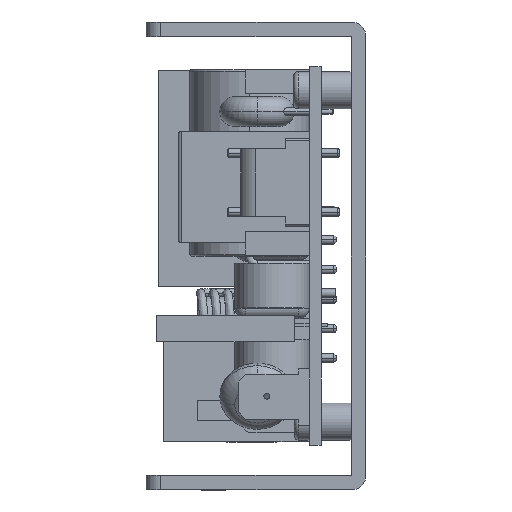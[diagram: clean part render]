
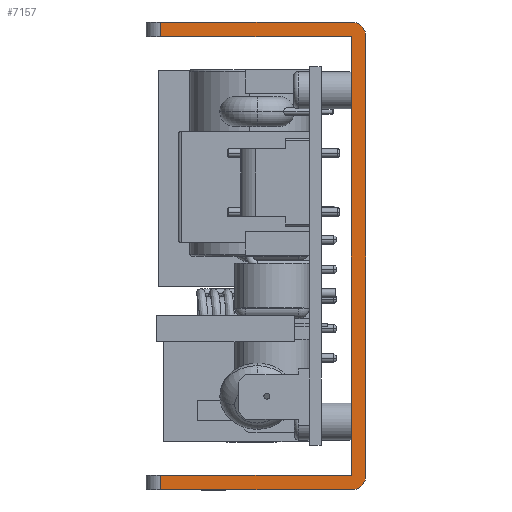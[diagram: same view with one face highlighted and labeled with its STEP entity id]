
A CAD part, left-side view. The second image highlights one B-rep face of the part: STEP entity #7157.
In plain terms, the highlighted planar face has unit normal (-1, 0, 0).
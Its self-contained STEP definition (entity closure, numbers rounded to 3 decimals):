
#93 = LINE ( 'NONE', #13822, #1329 ) ;
#248 = CARTESIAN_POINT ( 'NONE',  ( 0., 27.5, 0. ) ) ;
#297 = VERTEX_POINT ( 'NONE', #16114 ) ;
#1262 = CARTESIAN_POINT ( 'NONE',  ( 0., 2., 0. ) ) ;
#1315 = DIRECTION ( 'NONE',  ( -1., 0., 0. ) ) ;
#1329 = VECTOR ( 'NONE', #20276, 1000. ) ;
#1388 = PLANE ( 'NONE',  #6028 ) ;
#1786 = ORIENTED_EDGE ( 'NONE', *, *, #17765, .T. ) ;
#1854 = VECTOR ( 'NONE', #2085, 1000. ) ;
#2005 = VECTOR ( 'NONE', #14659, 1000. ) ;
#2007 = VERTEX_POINT ( 'NONE', #4322 ) ;
#2059 = VECTOR ( 'NONE', #3610, 1000. ) ;
#2085 = DIRECTION ( 'NONE',  ( 0., 0., 1. ) ) ;
#2361 = VERTEX_POINT ( 'NONE', #19154 ) ;
#2841 = ORIENTED_EDGE ( 'NONE', *, *, #12361, .F. ) ;
#3081 = DIRECTION ( 'NONE',  ( 0., 0., -1. ) ) ;
#3136 = EDGE_CURVE ( 'NONE', #2007, #12794, #7027, .T. ) ;
#3141 = CIRCLE ( 'NONE', #3642, 2. ) ;
#3610 = DIRECTION ( 'NONE',  ( 0., -1., 0. ) ) ;
#3642 = AXIS2_PLACEMENT_3D ( 'NONE', #19437, #8599, #5614 ) ;
#3697 = CARTESIAN_POINT ( 'NONE',  ( 0., 2., -60.8 ) ) ;
#3887 = VECTOR ( 'NONE', #12384, 1000. ) ;
#3935 = VECTOR ( 'NONE', #3081, 1000. ) ;
#4322 = CARTESIAN_POINT ( 'NONE',  ( 0., 2., -60.8 ) ) ;
#4606 = DIRECTION ( 'NONE',  ( 0., 1., 0. ) ) ;
#4615 = EDGE_CURVE ( 'NONE', #11894, #2361, #93, .T. ) ;
#4752 = CARTESIAN_POINT ( 'NONE',  ( 0., 2., -60.8 ) ) ;
#4772 = EDGE_CURVE ( 'NONE', #2361, #7251, #15799, .T. ) ;
#5022 = ORIENTED_EDGE ( 'NONE', *, *, #16263, .F. ) ;
#5402 = CARTESIAN_POINT ( 'NONE',  ( 0., 29.5, 0. ) ) ;
#5509 = CARTESIAN_POINT ( 'NONE',  ( 0., 0., -2. ) ) ;
#5523 = LINE ( 'NONE', #10748, #18070 ) ;
#5614 = DIRECTION ( 'NONE',  ( 0., 0., 1. ) ) ;
#5800 = EDGE_CURVE ( 'NONE', #7516, #18482, #3141, .T. ) ;
#5993 = LINE ( 'NONE', #3697, #1854 ) ;
#6028 = AXIS2_PLACEMENT_3D ( 'NONE', #12393, #1315, #17016 ) ;
#6050 = DIRECTION ( 'NONE',  ( 0., 1., 0. ) ) ;
#6349 = DIRECTION ( 'NONE',  ( -1., 0., 0. ) ) ;
#6732 = LINE ( 'NONE', #5402, #2059 ) ;
#7027 = LINE ( 'NONE', #10873, #17592 ) ;
#7157 = ADVANCED_FACE ( 'NONE', ( #18870 ), #1388, .T. ) ;
#7251 = VERTEX_POINT ( 'NONE', #12669 ) ;
#7516 = VERTEX_POINT ( 'NONE', #5509 ) ;
#7589 = AXIS2_PLACEMENT_3D ( 'NONE', #4752, #6349, #9517 ) ;
#8290 = CARTESIAN_POINT ( 'NONE',  ( 0., 27.5, -60.8 ) ) ;
#8520 = VERTEX_POINT ( 'NONE', #14456 ) ;
#8599 = DIRECTION ( 'NONE',  ( -1., 0., 0. ) ) ;
#9335 = CARTESIAN_POINT ( 'NONE',  ( 0., 27.5, 0. ) ) ;
#9499 = VERTEX_POINT ( 'NONE', #248 ) ;
#9517 = DIRECTION ( 'NONE',  ( 0., 0., 1. ) ) ;
#10095 = ORIENTED_EDGE ( 'NONE', *, *, #4772, .T. ) ;
#10694 = CARTESIAN_POINT ( 'NONE',  ( 0., 0., 0. ) ) ;
#10748 = CARTESIAN_POINT ( 'NONE',  ( 0., 2., -2. ) ) ;
#10760 = ORIENTED_EDGE ( 'NONE', *, *, #3136, .T. ) ;
#10873 = CARTESIAN_POINT ( 'NONE',  ( 0., 2., -60.8 ) ) ;
#11739 = EDGE_CURVE ( 'NONE', #297, #8520, #5523, .T. ) ;
#11894 = VERTEX_POINT ( 'NONE', #17036 ) ;
#12361 = EDGE_CURVE ( 'NONE', #2007, #297, #5993, .T. ) ;
#12384 = DIRECTION ( 'NONE',  ( 0., 0., -1. ) ) ;
#12393 = CARTESIAN_POINT ( 'NONE',  ( 0., 29.5, 0. ) ) ;
#12471 = ORIENTED_EDGE ( 'NONE', *, *, #5800, .T. ) ;
#12669 = CARTESIAN_POINT ( 'NONE',  ( 0., 0., -60.8 ) ) ;
#12714 = ORIENTED_EDGE ( 'NONE', *, *, #4615, .T. ) ;
#12794 = VERTEX_POINT ( 'NONE', #8290 ) ;
#13524 = EDGE_LOOP ( 'NONE', ( #5022, #12471, #17482, #18629, #18316, #2841, #10760, #1786, #12714, #10095 ) ) ;
#13822 = CARTESIAN_POINT ( 'NONE',  ( 0., 29.5, -62.8 ) ) ;
#13979 = EDGE_CURVE ( 'NONE', #9499, #18482, #6732, .T. ) ;
#14456 = CARTESIAN_POINT ( 'NONE',  ( 0., 27.5, -2. ) ) ;
#14659 = DIRECTION ( 'NONE',  ( 0., 0., -1. ) ) ;
#15799 = CIRCLE ( 'NONE', #7589, 2. ) ;
#16002 = LINE ( 'NONE', #19412, #2005 ) ;
#16114 = CARTESIAN_POINT ( 'NONE',  ( 0., 2., -2. ) ) ;
#16263 = EDGE_CURVE ( 'NONE', #7516, #7251, #16442, .T. ) ;
#16442 = LINE ( 'NONE', #10694, #3887 ) ;
#17016 = DIRECTION ( 'NONE',  ( 0., 0., 1. ) ) ;
#17036 = CARTESIAN_POINT ( 'NONE',  ( 0., 27.5, -62.8 ) ) ;
#17482 = ORIENTED_EDGE ( 'NONE', *, *, #13979, .F. ) ;
#17592 = VECTOR ( 'NONE', #4606, 1000. ) ;
#17705 = EDGE_CURVE ( 'NONE', #9499, #8520, #19661, .T. ) ;
#17765 = EDGE_CURVE ( 'NONE', #12794, #11894, #16002, .T. ) ;
#18070 = VECTOR ( 'NONE', #6050, 1000. ) ;
#18316 = ORIENTED_EDGE ( 'NONE', *, *, #11739, .F. ) ;
#18482 = VERTEX_POINT ( 'NONE', #1262 ) ;
#18629 = ORIENTED_EDGE ( 'NONE', *, *, #17705, .T. ) ;
#18870 = FACE_OUTER_BOUND ( 'NONE', #13524, .T. ) ;
#19154 = CARTESIAN_POINT ( 'NONE',  ( 0., 2., -62.8 ) ) ;
#19412 = CARTESIAN_POINT ( 'NONE',  ( 0., 27.5, 0. ) ) ;
#19437 = CARTESIAN_POINT ( 'NONE',  ( 0., 2., -2. ) ) ;
#19661 = LINE ( 'NONE', #9335, #3935 ) ;
#20276 = DIRECTION ( 'NONE',  ( 0., -1., 0. ) ) ;
